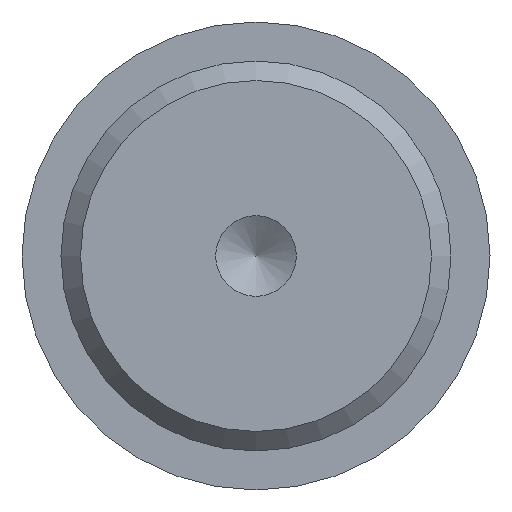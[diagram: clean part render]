
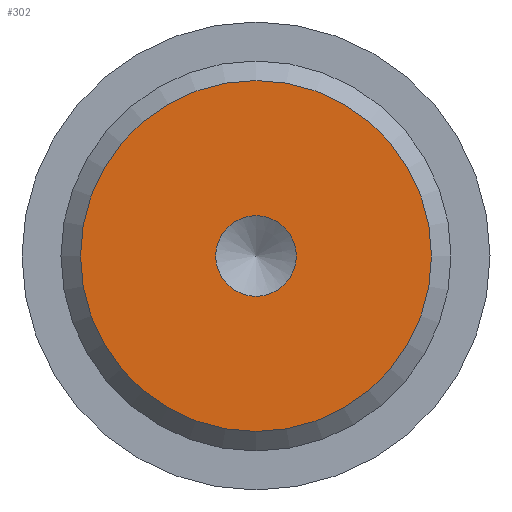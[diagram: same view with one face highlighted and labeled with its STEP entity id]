
A CAD part, left-side view. The second image highlights one B-rep face of the part: STEP entity #302.
In plain terms, the highlighted planar face has unit normal (-1, 0, 0).
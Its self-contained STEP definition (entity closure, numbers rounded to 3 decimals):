
#40=PLANE('',#344);
#68=FACE_BOUND('',#126,.T.);
#87=FACE_OUTER_BOUND('',#125,.T.);
#125=EDGE_LOOP('',(#252));
#126=EDGE_LOOP('',(#253));
#142=CIRCLE('',#322,2.067);
#152=CIRCLE('',#341,9.);
#162=VERTEX_POINT('',#469);
#178=VERTEX_POINT('',#546);
#190=EDGE_CURVE('',#162,#162,#142,.T.);
#206=EDGE_CURVE('',#178,#178,#152,.T.);
#252=ORIENTED_EDGE('',*,*,#206,.F.);
#253=ORIENTED_EDGE('',*,*,#190,.T.);
#302=ADVANCED_FACE('',(#87,#68),#40,.F.);
#322=AXIS2_PLACEMENT_3D('',#470,#377,#378);
#341=AXIS2_PLACEMENT_3D('',#547,#417,#418);
#344=AXIS2_PLACEMENT_3D('',#551,#423,#424);
#377=DIRECTION('center_axis',(1.,0.,0.));
#378=DIRECTION('ref_axis',(0.,0.,1.));
#417=DIRECTION('center_axis',(1.,0.,0.));
#418=DIRECTION('ref_axis',(0.,-1.,0.));
#423=DIRECTION('center_axis',(1.,0.,0.));
#424=DIRECTION('ref_axis',(0.,0.,-1.));
#469=CARTESIAN_POINT('',(0.,0.,2.067));
#470=CARTESIAN_POINT('Origin',(0.,0.,0.));
#546=CARTESIAN_POINT('',(0.,9.,0.));
#547=CARTESIAN_POINT('Origin',(0.,0.,0.));
#551=CARTESIAN_POINT('Origin',(0.,0.,0.));
